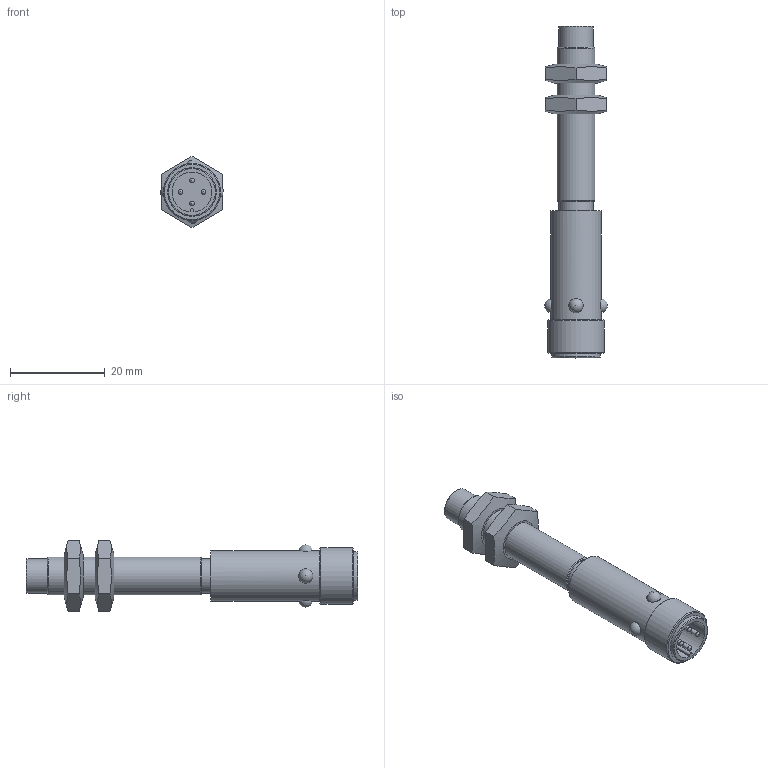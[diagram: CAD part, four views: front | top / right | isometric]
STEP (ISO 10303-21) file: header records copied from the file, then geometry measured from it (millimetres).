
FILE_DESCRIPTION(/* description */ (''),/* implementation_level */ '2;1');
FILE_NAME(/* name */ '3DCAD_IS_108_MM_2Nx_4N0_M12.stp',/* time_stamp */ '2019-09-12T11:46:24+02:00',/* author */ ('CC2'),/* organization */ ('Leuze electronic'),/* preprocessor_version */ 'ST-DEVELOPER v16',/* originating_system */ 'SIEMENS PLM Software NX 11.0',/* authorisation */ '');
FILE_SCHEMA (('AUTOMOTIVE_DESIGN { 1 0 10303 214 3 1 1 1 }'));
Length unit declared in the file: millimetre
Products named in the file (2): 021201_00.0_1-Mutter  6kt  M8 4hoch; 19-103016_00_1-3DCAD_IS_108_MM_2Nx_4N0_M12
Assembly tree (2 placements, depth 2):
  19-103016_00_1-3DCAD_IS_108_MM_2Nx_4N0_M12
    021201_00.0_1-Mutter  6kt  M8 4hoch  x2
Bounding box: 13.27 x 69.9 x 15.01 mm (x, y, z)
Volume: 5084.9 mm3; surface area: 3433.1 mm2
Topology: 3 solids, 3 shells, 58 faces, 166 edges, 119 vertices
Faces by surface type: plane 26, cylinder 14, cone 8, sphere 8, torus 2
Full cylindrical faces by diameter (mm): 1 x4, 7.2 x2, 8 x3, 10.2 x1, 10.7 x1, 12 x1
Entity records: 2414 total; most frequent: CARTESIAN_POINT 1406, DIRECTION 182, ORIENTED_EDGE 152, AXIS2_PLACEMENT_3D 84, EDGE_LOOP 82, EDGE_CURVE 76, VERTEX_POINT 66, FACE_BOUND 63
